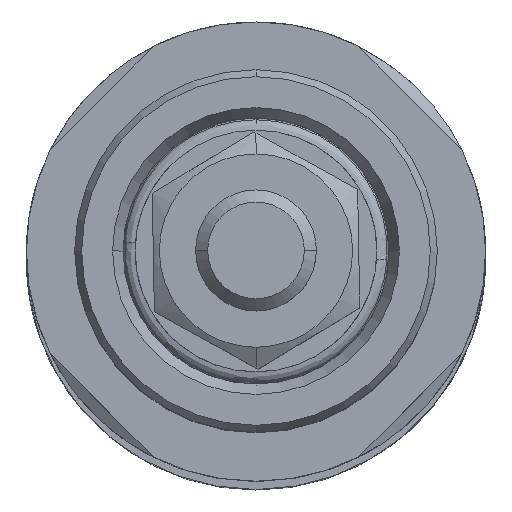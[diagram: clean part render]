
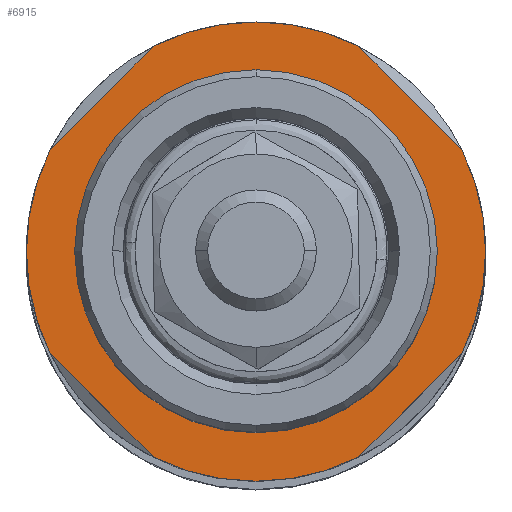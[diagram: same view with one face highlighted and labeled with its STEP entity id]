
A CAD part, top view. The second image highlights one B-rep face of the part: STEP entity #6915.
In plain terms, the highlighted planar face has unit normal (0, 0, 1).
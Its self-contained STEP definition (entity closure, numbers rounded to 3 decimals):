
#39 = CARTESIAN_POINT ( 'NONE',  ( 0., 0., 0. ) ) ;
#139 = VECTOR ( 'NONE', #2448, 1000. ) ;
#226 = CIRCLE ( 'NONE', #6467, 15. ) ;
#228 = VECTOR ( 'NONE', #6279, 1000. ) ;
#250 = CIRCLE ( 'NONE', #6939, 19. ) ;
#342 = DIRECTION ( 'NONE',  ( 1., 0., 0. ) ) ;
#345 = AXIS2_PLACEMENT_3D ( 'NONE', #4437, #4473, #1043 ) ;
#360 = CARTESIAN_POINT ( 'NONE',  ( -19., 0., 0. ) ) ;
#364 = ORIENTED_EDGE ( 'NONE', *, *, #5094, .F. ) ;
#369 = CARTESIAN_POINT ( 'NONE',  ( 19., 0., 0. ) ) ;
#380 = ORIENTED_EDGE ( 'NONE', *, *, #5370, .F. ) ;
#682 = VERTEX_POINT ( 'NONE', #4038 ) ;
#688 = CARTESIAN_POINT ( 'NONE',  ( 0., 0., 0. ) ) ;
#690 = ORIENTED_EDGE ( 'NONE', *, *, #5770, .T. ) ;
#722 = DIRECTION ( 'NONE',  ( 1., 0., 0. ) ) ;
#861 = EDGE_CURVE ( 'NONE', #2364, #1997, #4072, .T. ) ;
#917 = CARTESIAN_POINT ( 'NONE',  ( 0., 0., 0. ) ) ;
#951 = ORIENTED_EDGE ( 'NONE', *, *, #3091, .T. ) ;
#1022 = CIRCLE ( 'NONE', #7098, 19. ) ;
#1043 = DIRECTION ( 'NONE',  ( 1., 0., 0. ) ) ;
#1044 = CARTESIAN_POINT ( 'NONE',  ( -8.427, 17.029, 0. ) ) ;
#1203 = DIRECTION ( 'NONE',  ( 0., 1., 0. ) ) ;
#1232 = ORIENTED_EDGE ( 'NONE', *, *, #5982, .F. ) ;
#1314 = LINE ( 'NONE', #7352, #228 ) ;
#1417 = VECTOR ( 'NONE', #1910, 1000. ) ;
#1423 = ORIENTED_EDGE ( 'NONE', *, *, #861, .T. ) ;
#1858 = PLANE ( 'NONE',  #6882 ) ;
#1910 = DIRECTION ( 'NONE',  ( 0.707, -0.707, 0. ) ) ;
#1913 = EDGE_CURVE ( 'NONE', #682, #4092, #2224, .T. ) ;
#1997 = VERTEX_POINT ( 'NONE', #4717 ) ;
#2020 = EDGE_CURVE ( 'NONE', #6092, #7410, #3751, .T. ) ;
#2038 = FACE_OUTER_BOUND ( 'NONE', #2869, .T. ) ;
#2185 = VERTEX_POINT ( 'NONE', #369 ) ;
#2224 = LINE ( 'NONE', #5348, #139 ) ;
#2364 = VERTEX_POINT ( 'NONE', #1044 ) ;
#2448 = DIRECTION ( 'NONE',  ( -0.707, 0.707, 0. ) ) ;
#2449 = DIRECTION ( 'NONE',  ( 0., 0., -1. ) ) ;
#2487 = CIRCLE ( 'NONE', #345, 19. ) ;
#2520 = ORIENTED_EDGE ( 'NONE', *, *, #5411, .T. ) ;
#2544 = AXIS2_PLACEMENT_3D ( 'NONE', #688, #6432, #1203 ) ;
#2569 = DIRECTION ( 'NONE',  ( 1., 0., 0. ) ) ;
#2585 = AXIS2_PLACEMENT_3D ( 'NONE', #4162, #7215, #2569 ) ;
#2597 = DIRECTION ( 'NONE',  ( 0., 0., -1. ) ) ;
#2628 = ORIENTED_EDGE ( 'NONE', *, *, #3692, .T. ) ;
#2674 = DIRECTION ( 'NONE',  ( 1., 0., 0. ) ) ;
#2733 = VERTEX_POINT ( 'NONE', #3824 ) ;
#2869 = EDGE_LOOP ( 'NONE', ( #951, #380, #2628, #1232, #364, #4973, #4592, #1423, #5694, #4953 ) ) ;
#2884 = VERTEX_POINT ( 'NONE', #4664 ) ;
#2926 = EDGE_LOOP ( 'NONE', ( #690, #2520 ) ) ;
#3086 = CARTESIAN_POINT ( 'NONE',  ( -17.029, -8.427, 0. ) ) ;
#3091 = EDGE_CURVE ( 'NONE', #6092, #2884, #6062, .T. ) ;
#3563 = CARTESIAN_POINT ( 'NONE',  ( 17.029, -8.427, 0. ) ) ;
#3591 = CARTESIAN_POINT ( 'NONE',  ( 0., 0., 0. ) ) ;
#3692 = EDGE_CURVE ( 'NONE', #2733, #5532, #1314, .T. ) ;
#3751 = CIRCLE ( 'NONE', #5718, 19. ) ;
#3824 = CARTESIAN_POINT ( 'NONE',  ( 8.427, -17.029, 0. ) ) ;
#3883 = VECTOR ( 'NONE', #6547, 1000. ) ;
#4038 = CARTESIAN_POINT ( 'NONE',  ( 17.029, 8.427, 0. ) ) ;
#4067 = DIRECTION ( 'NONE',  ( 0., 1., 0. ) ) ;
#4072 = LINE ( 'NONE', #4760, #3883 ) ;
#4092 = VERTEX_POINT ( 'NONE', #6562 ) ;
#4162 = CARTESIAN_POINT ( 'NONE',  ( 0., 0., 0. ) ) ;
#4175 = DIRECTION ( 'NONE',  ( 0., 0., 1. ) ) ;
#4264 = CARTESIAN_POINT ( 'NONE',  ( 0., 0., 0. ) ) ;
#4268 = CIRCLE ( 'NONE', #2585, 19. ) ;
#4437 = CARTESIAN_POINT ( 'NONE',  ( 0., 0., 0. ) ) ;
#4473 = DIRECTION ( 'NONE',  ( 0., 0., -1. ) ) ;
#4592 = ORIENTED_EDGE ( 'NONE', *, *, #4705, .F. ) ;
#4664 = CARTESIAN_POINT ( 'NONE',  ( -8.427, -17.029, 0. ) ) ;
#4705 = EDGE_CURVE ( 'NONE', #2364, #4092, #250, .T. ) ;
#4717 = CARTESIAN_POINT ( 'NONE',  ( -17.029, 8.427, 0. ) ) ;
#4760 = CARTESIAN_POINT ( 'NONE',  ( -8.427, 17.029, 0. ) ) ;
#4818 = DIRECTION ( 'NONE',  ( 0., 0., -1. ) ) ;
#4867 = DIRECTION ( 'NONE',  ( 1., 0., 0. ) ) ;
#4875 = CARTESIAN_POINT ( 'NONE',  ( 0., 15., 0. ) ) ;
#4949 = DIRECTION ( 'NONE',  ( 0., 0., -1. ) ) ;
#4953 = ORIENTED_EDGE ( 'NONE', *, *, #2020, .F. ) ;
#4973 = ORIENTED_EDGE ( 'NONE', *, *, #1913, .T. ) ;
#5008 = CIRCLE ( 'NONE', #5302, 19. ) ;
#5094 = EDGE_CURVE ( 'NONE', #682, #2185, #4268, .T. ) ;
#5224 = CARTESIAN_POINT ( 'NONE',  ( -17.029, -8.427, 0. ) ) ;
#5228 = CARTESIAN_POINT ( 'NONE',  ( 0., 0., 0. ) ) ;
#5302 = AXIS2_PLACEMENT_3D ( 'NONE', #917, #4949, #342 ) ;
#5348 = CARTESIAN_POINT ( 'NONE',  ( 17.029, 8.427, 0. ) ) ;
#5370 = EDGE_CURVE ( 'NONE', #2733, #2884, #1022, .T. ) ;
#5411 = EDGE_CURVE ( 'NONE', #6711, #6441, #6021, .T. ) ;
#5499 = FACE_BOUND ( 'NONE', #2926, .T. ) ;
#5532 = VERTEX_POINT ( 'NONE', #3563 ) ;
#5534 = CARTESIAN_POINT ( 'NONE',  ( 0., 0., 0. ) ) ;
#5694 = ORIENTED_EDGE ( 'NONE', *, *, #5879, .F. ) ;
#5718 = AXIS2_PLACEMENT_3D ( 'NONE', #4264, #4818, #4867 ) ;
#5770 = EDGE_CURVE ( 'NONE', #6441, #6711, #226, .T. ) ;
#5879 = EDGE_CURVE ( 'NONE', #7410, #1997, #5008, .T. ) ;
#5982 = EDGE_CURVE ( 'NONE', #2185, #5532, #2487, .T. ) ;
#6021 = CIRCLE ( 'NONE', #2544, 15. ) ;
#6062 = LINE ( 'NONE', #3086, #1417 ) ;
#6092 = VERTEX_POINT ( 'NONE', #5224 ) ;
#6279 = DIRECTION ( 'NONE',  ( 0.707, 0.707, 0. ) ) ;
#6380 = DIRECTION ( 'NONE',  ( 1., 0., 0. ) ) ;
#6432 = DIRECTION ( 'NONE',  ( 0., 0., -1. ) ) ;
#6441 = VERTEX_POINT ( 'NONE', #4875 ) ;
#6467 = AXIS2_PLACEMENT_3D ( 'NONE', #39, #2449, #4067 ) ;
#6547 = DIRECTION ( 'NONE',  ( -0.707, -0.707, 0. ) ) ;
#6562 = CARTESIAN_POINT ( 'NONE',  ( 8.427, 17.029, 0. ) ) ;
#6711 = VERTEX_POINT ( 'NONE', #7158 ) ;
#6882 = AXIS2_PLACEMENT_3D ( 'NONE', #3591, #4175, #722 ) ;
#6915 = ADVANCED_FACE ( 'NONE', ( #2038, #5499 ), #1858, .T. ) ;
#6939 = AXIS2_PLACEMENT_3D ( 'NONE', #5534, #2597, #2674 ) ;
#7098 = AXIS2_PLACEMENT_3D ( 'NONE', #5228, #7495, #6380 ) ;
#7158 = CARTESIAN_POINT ( 'NONE',  ( 0., -15., 0. ) ) ;
#7215 = DIRECTION ( 'NONE',  ( 0., 0., -1. ) ) ;
#7352 = CARTESIAN_POINT ( 'NONE',  ( 8.427, -17.029, 0. ) ) ;
#7410 = VERTEX_POINT ( 'NONE', #360 ) ;
#7495 = DIRECTION ( 'NONE',  ( 0., 0., -1. ) ) ;
